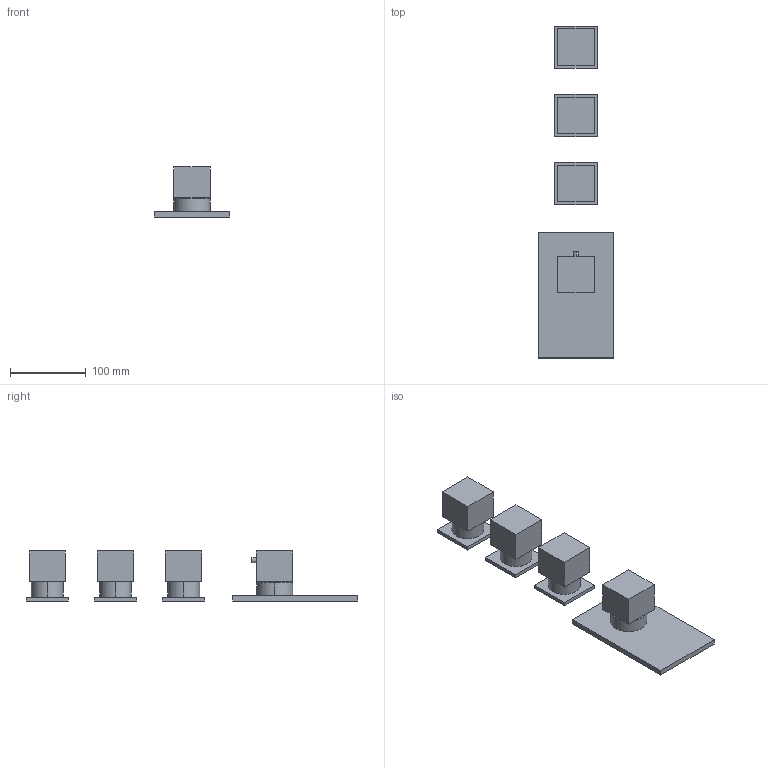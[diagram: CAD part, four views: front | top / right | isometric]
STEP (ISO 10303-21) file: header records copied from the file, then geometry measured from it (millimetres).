
FILE_DESCRIPTION((''),'2;1');
FILE_NAME('F3973X3','2013-02-22T',('ivanv'),(''),'PRO/ENGINEER BY PARAMETRIC TECHNOLOGY CORPORATION, 2012130','PRO/ENGINEER BY PARAMETRIC TECHNOLOGY CORPORATION, 2012130','');
FILE_SCHEMA(('CONFIG_CONTROL_DESIGN'));
Length unit declared in the file: millimetre
Products named in the file (1): F3973X3
Bounding box: 100 x 438 x 66 mm (x, y, z)
Volume: 624810.8 mm3; surface area: 113204.3 mm2
Topology: 5 solids, 5 shells, 69 faces, 144 edges, 94 vertices
Faces by surface type: plane 51, cylinder 12, torus 4, cone 2
Entity records: 1858 total; most frequent: DIRECTION 318, CARTESIAN_POINT 308, ORIENTED_EDGE 288, EDGE_CURVE 144, VECTOR 110, LINE 110, AXIS2_PLACEMENT_3D 104, VERTEX_POINT 94
